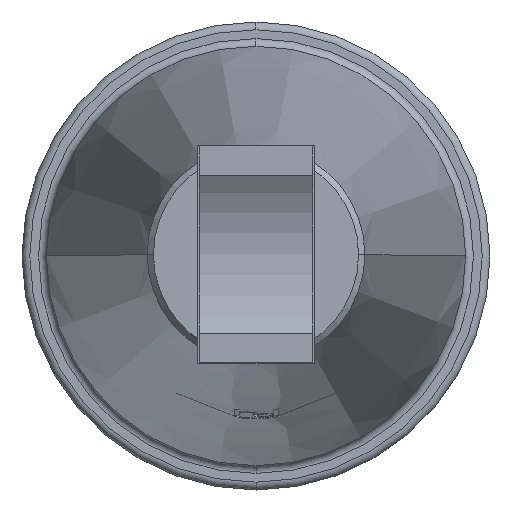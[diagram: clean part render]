
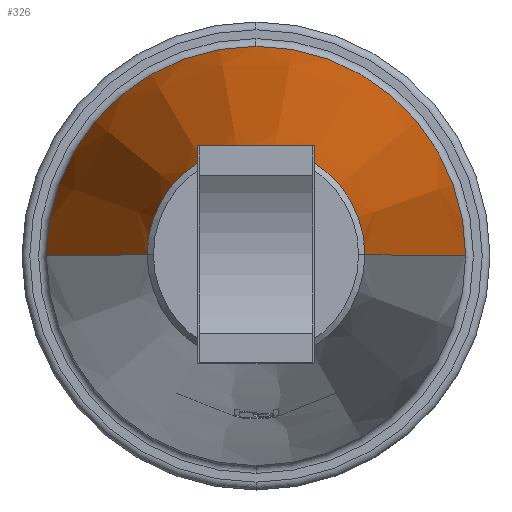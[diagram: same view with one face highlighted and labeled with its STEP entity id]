
A CAD part, top view. The second image highlights one B-rep face of the part: STEP entity #326.
In plain terms, the highlighted conical face has half-angle 7.768 degrees and reference radius 102.093 mm.
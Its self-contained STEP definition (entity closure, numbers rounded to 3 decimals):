
#326=ADVANCED_FACE('',(#667),#668,.T.);
#667=FACE_OUTER_BOUND('',#1053,.T.);
#668=CONICAL_SURFACE('',#1054,102.093,0.136);
#1053=EDGE_LOOP('',(#1816,#1817,#1818,#1819,#1820));
#1054=AXIS2_PLACEMENT_3D('',#1821,#1822,#1823);
#1816=ORIENTED_EDGE('',*,*,#2413,.T.);
#1817=ORIENTED_EDGE('',*,*,#2494,.F.);
#1818=ORIENTED_EDGE('',*,*,#2354,.F.);
#1819=ORIENTED_EDGE('',*,*,#2415,.T.);
#1820=ORIENTED_EDGE('',*,*,#2495,.T.);
#1821=CARTESIAN_POINT('',(408.211,528.029,-12.338));
#1822=DIRECTION('',(0.,0.,-1.0));
#1823=DIRECTION('',(1.0,0.,0.));
#2354=EDGE_CURVE('',#2808,#2810,#2811,.T.);
#2413=EDGE_CURVE('',#2915,#2916,#2917,.T.);
#2415=EDGE_CURVE('',#2808,#2918,#2920,.T.);
#2494=EDGE_CURVE('',#2810,#2916,#3044,.T.);
#2495=EDGE_CURVE('',#2918,#2915,#3045,.T.);
#2808=VERTEX_POINT('',#3537);
#2810=VERTEX_POINT('',#3539);
#2811=CIRCLE('',#3540,134.41);
#2915=VERTEX_POINT('',#3998);
#2916=VERTEX_POINT('',#3999);
#2917=LINE('',#4000,#4001);
#2918=VERTEX_POINT('',#4002);
#2920=LINE('',#4004,#4005);
#3044=CIRCLE('',#4489,134.41);
#3045=CIRCLE('',#4490,69.775);
#3537=CARTESIAN_POINT('',(273.801,528.029,-249.231));
#3539=CARTESIAN_POINT('',(408.211,662.439,-249.231));
#3540=AXIS2_PLACEMENT_3D('',#4849,#4850,#4851);
#3998=CARTESIAN_POINT('',(477.986,528.029,224.555));
#3999=CARTESIAN_POINT('',(542.621,528.029,-249.231));
#4000=CARTESIAN_POINT('',(510.304,528.029,-12.338));
#4001=VECTOR('',#4921,1.0);
#4002=CARTESIAN_POINT('',(338.435,528.029,224.555));
#4004=CARTESIAN_POINT('',(306.118,528.029,-12.338));
#4005=VECTOR('',#4925,1.0);
#4489=AXIS2_PLACEMENT_3D('',#5006,#5007,#5008);
#4490=AXIS2_PLACEMENT_3D('',#5009,#5010,#5011);
#4849=CARTESIAN_POINT('',(408.211,528.029,-249.231));
#4850=DIRECTION('',(0.,0.,-1.0));
#4851=DIRECTION('',(1.0,0.,0.));
#4921=DIRECTION('',(0.135,0.,-0.991));
#4925=DIRECTION('',(0.135,0.,0.991));
#5006=CARTESIAN_POINT('',(408.211,528.029,-249.231));
#5007=DIRECTION('',(0.,0.,-1.0));
#5008=DIRECTION('',(1.0,0.,0.));
#5009=CARTESIAN_POINT('',(408.211,528.029,224.555));
#5010=DIRECTION('',(0.,0.,-1.0));
#5011=DIRECTION('',(1.0,0.,0.));
